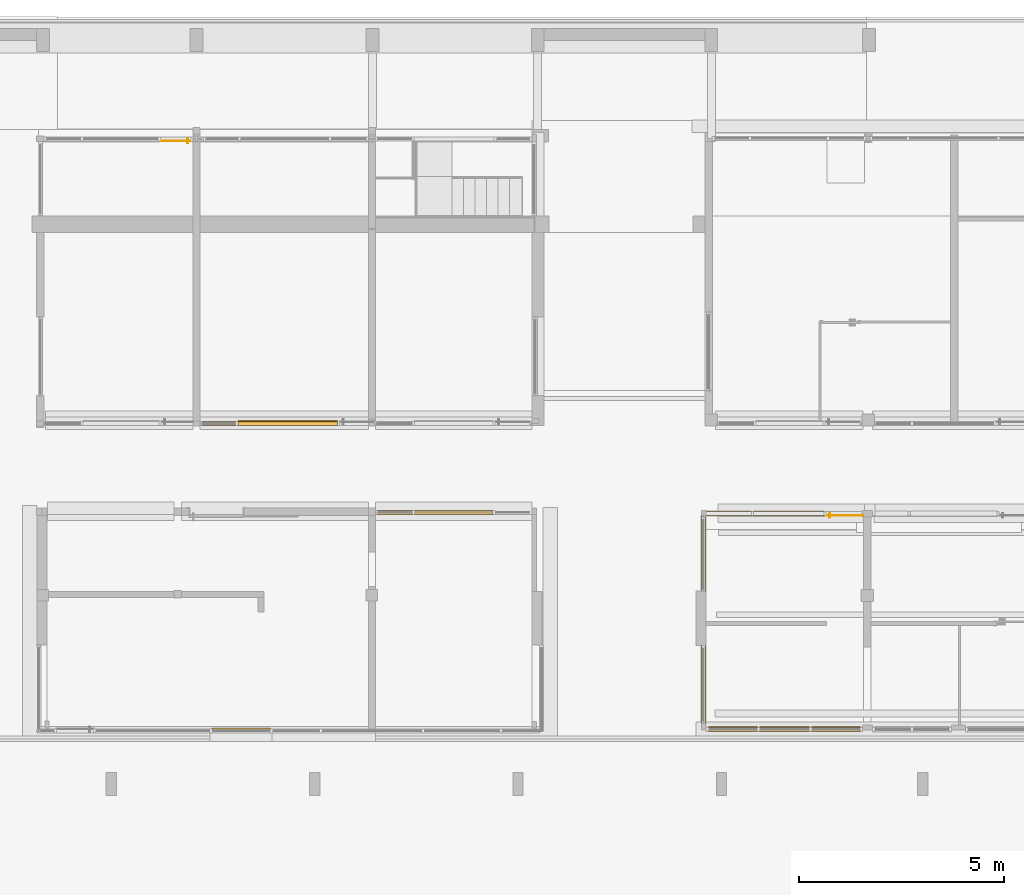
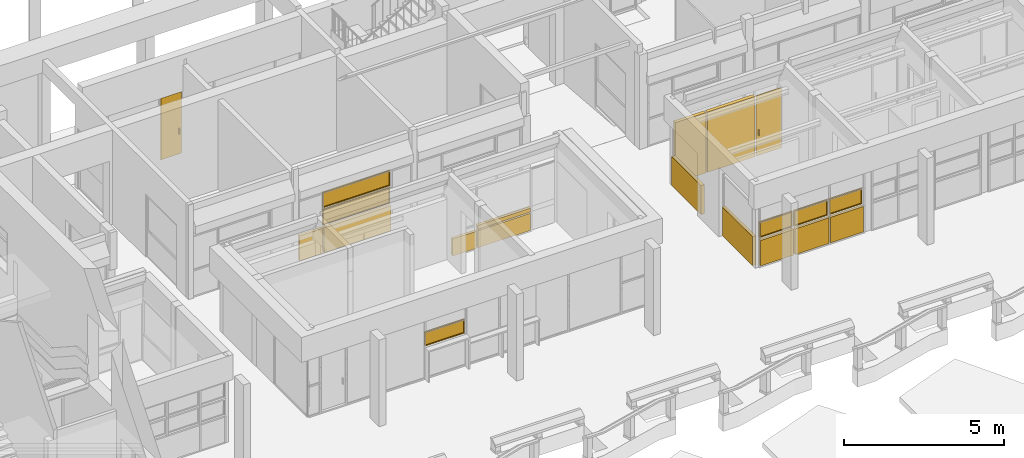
# One storey, part 105 of 117: 12 curtain walls, 6 windows, 2 doors, 8 elements without a shape of their own.
"""IFC4 building model written with IfcOpenShell, lengths in metres."""

from ifc_helpers import new_model, entity, si_unit, converted_unit, derived_unit, direction, frame, origin, place, context, subcontext, project, spatial, indexed_curve, outline, extrude, source, transform, mapped, material, constituent, constituent_set, type_object, type_shapes, element, aggregate, save


model = new_model("IFC4")

# Units and contexts
model_context = context("Model", 3, precision=1e-05, world=origin(), true_north=direction((6.123031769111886e-17, 1.0)))
body_context = subcontext(model_context, "Body", "Model", "MODEL_VIEW")
ifc_project = project(units=[si_unit("LENGTHUNIT", "METRE"), si_unit("AREAUNIT", "SQUARE_METRE"), si_unit("VOLUMEUNIT", "CUBIC_METRE"), converted_unit("PLANEANGLEUNIT", "DEGREE", entity("IfcRatioMeasure", 0.017453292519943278), si_unit("PLANEANGLEUNIT", "RADIAN"), dimensions=[0, 0, 0, 0, 0, 0, 0]), si_unit("MASSUNIT", "GRAM", prefix="KILO"), derived_unit("MASSDENSITYUNIT", [(si_unit("MASSUNIT", "GRAM", prefix="KILO"), 1), (si_unit("LENGTHUNIT", "METRE"), -3)]), derived_unit("MOMENTOFINERTIAUNIT", [(si_unit("LENGTHUNIT", "METRE"), 4)]), si_unit("TIMEUNIT", "SECOND"), si_unit("FREQUENCYUNIT", "HERTZ"), si_unit("THERMODYNAMICTEMPERATUREUNIT", "DEGREE_CELSIUS"), derived_unit("THERMALTRANSMITTANCEUNIT", [(si_unit("MASSUNIT", "GRAM", prefix="KILO"), 1), (si_unit("THERMODYNAMICTEMPERATUREUNIT", "KELVIN"), -1), (si_unit("TIMEUNIT", "SECOND"), -3)]), derived_unit("VOLUMETRICFLOWRATEUNIT", [(si_unit("LENGTHUNIT", "METRE"), 3), (si_unit("TIMEUNIT", "SECOND"), -1)]), derived_unit("MASSFLOWRATEUNIT", [(si_unit("MASSUNIT", "GRAM", prefix="KILO"), 1), (si_unit("TIMEUNIT", "SECOND"), -1)]), derived_unit("ROTATIONALFREQUENCYUNIT", [(si_unit("TIMEUNIT", "SECOND"), -1)]), si_unit("ELECTRICCURRENTUNIT", "AMPERE"), si_unit("ELECTRICVOLTAGEUNIT", "VOLT"), si_unit("POWERUNIT", "WATT"), si_unit("FORCEUNIT", "NEWTON", prefix="KILO"), si_unit("ILLUMINANCEUNIT", "LUX"), si_unit("LUMINOUSFLUXUNIT", "LUMEN"), si_unit("LUMINOUSINTENSITYUNIT", "CANDELA"), derived_unit("USERDEFINED", [(si_unit("MASSUNIT", "GRAM", prefix="KILO"), -1), (si_unit("LENGTHUNIT", "METRE"), -2), (si_unit("TIMEUNIT", "SECOND"), 3), (si_unit("LUMINOUSFLUXUNIT", "LUMEN"), 1)]), derived_unit("SOUNDPOWERUNIT", [(si_unit("MASSUNIT", "GRAM", prefix="KILO"), 1), (si_unit("LENGTHUNIT", "METRE"), 2), (si_unit("TIMEUNIT", "SECOND"), -3)]), derived_unit("SOUNDPRESSUREUNIT", [(si_unit("MASSUNIT", "GRAM", prefix="KILO"), 1), (si_unit("LENGTHUNIT", "METRE"), -1), (si_unit("TIMEUNIT", "SECOND"), -2)]), derived_unit("LINEARVELOCITYUNIT", [(si_unit("LENGTHUNIT", "METRE"), 1), (si_unit("TIMEUNIT", "SECOND"), -1)]), si_unit("PRESSUREUNIT", "PASCAL"), derived_unit("USERDEFINED", [(si_unit("LENGTHUNIT", "METRE"), -2), (si_unit("MASSUNIT", "GRAM", prefix="KILO"), 1), (si_unit("TIMEUNIT", "SECOND"), -2)]), derived_unit("LINEARFORCEUNIT", [(si_unit("MASSUNIT", "GRAM", prefix="KILO"), 1), (si_unit("LENGTHUNIT", "METRE"), 1), (si_unit("TIMEUNIT", "SECOND"), -2), (si_unit("LENGTHUNIT", "METRE"), -1)]), derived_unit("PLANARFORCEUNIT", [(si_unit("MASSUNIT", "GRAM", prefix="KILO"), 1), (si_unit("LENGTHUNIT", "METRE"), 1), (si_unit("TIMEUNIT", "SECOND"), -2), (si_unit("LENGTHUNIT", "METRE"), -2)])], contexts=[model_context])

# Site, building, storey
site_placement = place(None, origin())
site = spatial("IfcSite", under=ifc_project, at=site_placement, Name="Superficie", CompositionType="ELEMENT")
building_placement = place(site_placement, origin())
building = spatial("IfcBuilding", under=site, at=building_placement, CompositionType="ELEMENT")
storey_placement = place(building_placement, origin())
storey = spatial("IfcBuildingStorey", under=building, at=storey_placement, Name="Nivel 0", CompositionType="ELEMENT", Elevation=0.0)

# Curtain walls
curtain_wall_type_1 = type_object("IfcCurtainWallType", Name="Muro cortina:Muro cortina - simple", PredefinedType="NOTDEFINED")
curtain_wall_1_placement = place(storey_placement, origin())
curtain_wall_1 = element("IfcCurtainWall", 1, at=curtain_wall_1_placement, inside=storey, type_object=curtain_wall_type_1, Name="Muro cortina:Muro cortina - simple", ObjectType="Muro cortina:Muro cortina - simple", PredefinedType="NOTDEFINED")
ifc_material_1 = material(Name="<Unnamed>")
curtain_wall_type_2 = type_object("IfcCurtainWallType", Name="Muro básico:Por defecto - 12 cm 2", PredefinedType="NOTDEFINED")
curtain_wall_2_placement = place(storey_placement, frame((0.7267990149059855, 0.31936135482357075, 0.0), z_axis=(0.0, 0.0, 1.0), x_axis=(0.0, -1.0, 0.0)))
curtain_wall_2 = element("IfcCurtainWall", 2, at=curtain_wall_2_placement, type_object=curtain_wall_type_2, material=ifc_material_1, Name="Muro básico:Por defecto - 12 cm 2", ObjectType="Muro básico:Por defecto - 12 cm 2", PredefinedType="NOTDEFINED", context=body_context, shape_type="SweptSolid", body=[
    extrude(outline(indexed_curve([(1.8935320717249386, 0.060000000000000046), (-5.735525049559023e-18, 0.06000000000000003), (5.735525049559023e-18, -0.06000000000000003), (1.8935320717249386, -0.06000000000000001), (1.8935320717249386, 0.060000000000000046)], self_intersect=False)), origin(), (0.0, 0.0, 1.0), 1.1),
])
aggregate(curtain_wall_1, [curtain_wall_2])

curtain_wall_3_placement = place(storey_placement, origin())
curtain_wall_3 = element("IfcCurtainWall", 3, at=curtain_wall_3_placement, inside=storey, type_object=curtain_wall_type_1, Name="Muro cortina:Muro cortina - simple", ObjectType="Muro cortina:Muro cortina - simple", PredefinedType="NOTDEFINED")
curtain_wall_4_placement = place(storey_placement, frame((0.7267990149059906, 3.4854618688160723, 0.0), z_axis=(0.0, 0.0, 1.0), x_axis=(0.0, -1.0, 0.0)))
curtain_wall_4 = element("IfcCurtainWall", 4, at=curtain_wall_4_placement, type_object=curtain_wall_type_2, material=ifc_material_1, Name="Muro básico:Por defecto - 12 cm 2", ObjectType="Muro básico:Por defecto - 12 cm 2", PredefinedType="NOTDEFINED", context=body_context, shape_type="SweptSolid", body=[
    extrude(outline(indexed_curve([(1.846100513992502, 0.05999999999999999), (-7.341472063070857e-17, 0.06000000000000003), (7.341472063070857e-17, -0.06000000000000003), (1.846100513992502, -0.060000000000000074), (1.846100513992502, 0.05999999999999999)], self_intersect=False)), origin(), (0.0, 0.0, 1.0), 1.1),
])
aggregate(curtain_wall_3, [curtain_wall_4])

# Curtain walls, door
curtain_wall_5_placement = place(storey_placement, origin())
curtain_wall_5 = element("IfcCurtainWall", 5, at=curtain_wall_5_placement, inside=storey, type_object=curtain_wall_type_1, Name="Muro cortina:Muro cortina - simple", ObjectType="Muro cortina:Muro cortina - simple", PredefinedType="NOTDEFINED")
curtain_wall_6_placement = place(storey_placement, frame((3.6567990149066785, 3.5257137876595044, 0.05), z_axis=(0.0, 0.0, 1.0), x_axis=(-1.0, 0.0, 0.0)))
curtain_wall_6 = element("IfcCurtainWall", 6, at=curtain_wall_6_placement, type_object=curtain_wall_type_2, material=ifc_material_1, Name="Muro básico:Por defecto - 12 cm 2", ObjectType="Muro básico:Por defecto - 12 cm 2", PredefinedType="NOTDEFINED", context=body_context, shape_type="SweptSolid", body=[
    extrude(outline(indexed_curve([(1.7100000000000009, 0.06000000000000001), (-1.9420986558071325e-16, 0.059999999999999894), (1.9420986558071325e-16, -0.059999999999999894), (1.7100000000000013, -0.059999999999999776), (1.7100000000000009, 0.06000000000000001)], self_intersect=False)), origin(), (0.0, 0.0, 1.0), 2.3),
])
curtain_wall_7_placement = place(storey_placement, frame((1.8967990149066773, 3.5257137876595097, 0.05), z_axis=(0.0, 0.0, 1.0), x_axis=(-1.0, 0.0, 0.0)))
curtain_wall_7 = element("IfcCurtainWall", 7, at=curtain_wall_7_placement, type_object=curtain_wall_type_2, material=ifc_material_1, Name="Muro básico:Por defecto - 12 cm 2", ObjectType="Muro básico:Por defecto - 12 cm 2", PredefinedType="NOTDEFINED", context=body_context, shape_type="SweptSolid", body=[
    extrude(outline(indexed_curve([(1.1049999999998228, 0.059999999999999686), (-1.9420986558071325e-16, 0.059999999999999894), (1.9420986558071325e-16, -0.059999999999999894), (1.104999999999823, -0.06000000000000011), (1.1049999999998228, 0.059999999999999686)], self_intersect=False)), origin(), (0.0, 0.0, 1.0), 2.3),
])
ifc_material_2 = material(Name="Metal - Aluminio", Category="Metal")
ifc_constituent_1 = constituent(ifc_material_2, Name="Metal - Aluminio", Category="Metal")
ifc_material_3 = material(Name="Acero", Category="Metal")
ifc_constituent_2 = constituent(ifc_material_3, Name="Acero", Category="Metal")
ifc_constituent_set_1 = constituent_set(constituents=[ifc_constituent_1, ifc_constituent_2], Name="MaterialConstituentSet")
ifc_constituent_3 = constituent(ifc_material_2, Name="Marco/montante", Category="Metal")
ifc_constituent_4 = constituent(ifc_material_3, Name="Panel", Category="Metal")
ifc_constituent_set_2 = constituent_set(constituents=[ifc_constituent_3, ifc_constituent_4], Name="MaterialConstituentSet")
door_type_1 = type_object("IfcDoorType", Name="Puerta de cristal abatible en muro cortina:Puerta de chapa abatible en muro cortina 2", OperationType="NOTDEFINED", PredefinedType="DOOR", material=ifc_constituent_set_2)
shared_shape_1 = source(origin(), body_context, "Body", "SweptSolid", [
    extrude(outline(indexed_curve([(-0.012700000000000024, -0.0254), (0.012700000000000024, -0.0254), (0.012700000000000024, 0.0254), (-0.012700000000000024, 0.0254), (-0.012700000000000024, -0.0254)], self_intersect=False)), frame((0.3661000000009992, 0.012900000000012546, 0.7619999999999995)), (0.0, 0.0, 1.0), 0.22860000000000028),
    extrude(outline(indexed_curve([(-0.012699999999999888, -0.025399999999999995), (0.01269999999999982, -0.025399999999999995), (0.01269999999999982, 0.025400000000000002), (-0.012699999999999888, 0.025400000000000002), (-0.012699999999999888, -0.025399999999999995)], self_intersect=False)), frame((0.3661000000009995, 0.07640000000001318, 0.762), z_axis=(0.0, 0.0, 1.0), x_axis=(-1.0, 0.0, 0.0)), (0.0, 0.0, 1.0), 0.22860000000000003),
    extrude(outline(indexed_curve([(-0.006350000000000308, -0.4550000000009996), (0.006350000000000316, -0.45500000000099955), (0.006350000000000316, 0.45500000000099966), (-0.006350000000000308, 0.4550000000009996), (-0.006350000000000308, -0.4550000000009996)], self_intersect=False)), frame((0.0, 0.04465000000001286, 0.0), z_axis=(0.0, 0.0, 1.0), x_axis=(0.0, -1.0, 0.0)), (0.0, 0.0, 1.0), 2.3),
])
type_shapes(door_type_1, [shared_shape_1])
door_1_placement = place(curtain_wall_5_placement, frame((4.161799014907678, 3.5257137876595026, 0.05), z_axis=(0.0, 0.0, 1.0), x_axis=(-1.0, 0.0, 0.0)))
door_1 = element("IfcDoor", 8, at=door_1_placement, type_object=door_type_1, material=ifc_constituent_set_1, Name="Puerta de cristal abatible en muro cortina:Puerta de chapa abatible en muro cortina 2", ObjectType="Puerta de cristal abatible en muro cortina:Puerta de chapa abatible en muro cortina 2", OperationType="NOTDEFINED", OverallHeight=2.3, OverallWidth=0.9100000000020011, PredefinedType="DOOR", context=body_context, shape_type="MappedRepresentation", body=[
    mapped(shared_shape_1, transform((0.0, 0.0, 0.0), scale=1.0)),
])
aggregate(curtain_wall_5, [door_1, curtain_wall_6, curtain_wall_7])

# Curtain walls
curtain_wall_8_placement = place(storey_placement, origin())
curtain_wall_8 = element("IfcCurtainWall", 9, at=curtain_wall_8_placement, inside=storey, type_object=curtain_wall_type_1, Name="Muro cortina:Muro cortina - simple", ObjectType="Muro cortina:Muro cortina - simple", PredefinedType="NOTDEFINED")
curtain_wall_type_3 = type_object("IfcCurtainWallType", Name="Muro básico:Por defecto - 10 cm", PredefinedType="NOTDEFINED")
curtain_wall_9_placement = place(storey_placement, frame((-11.478200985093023, 5.715829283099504, 0.04500000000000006)))
curtain_wall_9 = element("IfcCurtainWall", 10, at=curtain_wall_9_placement, type_object=curtain_wall_type_3, material=ifc_material_1, Name="Muro básico:Por defecto - 10 cm", ObjectType="Muro básico:Por defecto - 10 cm", PredefinedType="NOTDEFINED", context=body_context, shape_type="SweptSolid", body=[
    extrude(outline(indexed_curve([(0.8299999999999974, 0.050000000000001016), (-1.5924516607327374e-16, 0.050000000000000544), (1.5924516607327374e-16, -0.050000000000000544), (0.8299999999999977, -0.05000000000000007), (0.8299999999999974, 0.050000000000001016)], self_intersect=False)), origin(), (0.0, 0.0, 1.0), 0.9500000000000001),
])
curtain_wall_10_placement = place(storey_placement, frame((-10.598200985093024, 5.715829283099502, 0.04500000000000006)))
curtain_wall_10 = element("IfcCurtainWall", 11, at=curtain_wall_10_placement, type_object=curtain_wall_type_3, material=ifc_material_1, Name="Muro básico:Por defecto - 10 cm", ObjectType="Muro básico:Por defecto - 10 cm", PredefinedType="NOTDEFINED", context=body_context, shape_type="SweptSolid", body=[
    extrude(outline(indexed_curve([(2.419534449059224, 0.05000000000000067), (-1.5924516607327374e-16, 0.050000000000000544), (1.5924516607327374e-16, -0.050000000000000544), (2.4195344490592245, -0.05000000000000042), (2.419534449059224, 0.05000000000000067)], self_intersect=False)), origin(), (0.0, 0.0, 1.0), 0.9500000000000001),
])

curtain_wall_11_placement = place(storey_placement, origin())
curtain_wall_11 = element("IfcCurtainWall", 12, at=curtain_wall_11_placement, inside=storey, type_object=curtain_wall_type_1, Name="Muro cortina:Muro cortina - simple", ObjectType="Muro cortina:Muro cortina - simple", PredefinedType="NOTDEFINED")
curtain_wall_12_placement = place(storey_placement, frame((-4.398200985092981, 3.5558292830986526, 0.04500000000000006), z_axis=(0.0, 0.0, 1.0), x_axis=(-1.0, 0.0, 0.0)))
curtain_wall_12 = element("IfcCurtainWall", 13, at=curtain_wall_12_placement, type_object=curtain_wall_type_3, material=ifc_material_1, Name="Muro básico:Por defecto - 10 cm", ObjectType="Muro básico:Por defecto - 10 cm", PredefinedType="NOTDEFINED", context=body_context, shape_type="SweptSolid", body=[
    extrude(outline(indexed_curve([(1.9100000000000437, 0.05000000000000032), (-1.6428722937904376e-16, 0.05), (1.6428722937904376e-16, -0.05), (1.910000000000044, -0.049999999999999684), (1.9100000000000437, 0.05000000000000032)], self_intersect=False)), origin(), (0.0, 0.0, 1.0), 0.6499999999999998),
])
curtain_wall_13_placement = place(storey_placement, frame((-6.358200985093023, 3.555829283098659, 0.04500000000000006), z_axis=(0.0, 0.0, 1.0), x_axis=(-1.0, 0.0, 0.0)))
curtain_wall_13 = element("IfcCurtainWall", 14, at=curtain_wall_13_placement, type_object=curtain_wall_type_3, material=ifc_material_1, Name="Muro básico:Por defecto - 10 cm", ObjectType="Muro básico:Por defecto - 10 cm", PredefinedType="NOTDEFINED", context=body_context, shape_type="SweptSolid", body=[
    extrude(outline(indexed_curve([(0.8500000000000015, 0.050000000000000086), (-1.6428722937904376e-16, 0.05), (1.6428722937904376e-16, -0.05), (0.8500000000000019, -0.04999999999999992), (0.8500000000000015, 0.050000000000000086)], self_intersect=False)), origin(), (0.0, 0.0, 1.0), 0.6499999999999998),
])
curtain_wall_14_placement = place(storey_placement, frame((-4.398200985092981, 3.5558292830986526, 0.7449999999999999), z_axis=(0.0, 0.0, 1.0), x_axis=(-1.0, 0.0, 0.0)))
curtain_wall_14 = element("IfcCurtainWall", 15, at=curtain_wall_14_placement, type_object=curtain_wall_type_3, material=ifc_material_1, Name="Muro básico:Por defecto - 10 cm", ObjectType="Muro básico:Por defecto - 10 cm", PredefinedType="NOTDEFINED", context=body_context, shape_type="SweptSolid", body=[
    extrude(outline(indexed_curve([(1.9100000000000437, 0.05000000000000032), (-1.6428722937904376e-16, 0.05), (1.6428722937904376e-16, -0.05), (1.910000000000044, -0.049999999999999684), (1.9100000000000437, 0.05000000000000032)], self_intersect=False)), origin(), (0.0, 0.0, 1.0), 0.15000000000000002),
])
aggregate(curtain_wall_11, [curtain_wall_12, curtain_wall_13, curtain_wall_14])

curtain_wall_15_placement = place(storey_placement, origin())
curtain_wall_15 = element("IfcCurtainWall", 16, at=curtain_wall_15_placement, inside=storey, type_object=curtain_wall_type_1, Name="Muro cortina:Muro cortina - simple", ObjectType="Muro cortina:Muro cortina - simple", PredefinedType="NOTDEFINED")
curtain_wall_16_placement = place(storey_placement, frame((4.546799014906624, -1.724170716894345, 0.05), z_axis=(0.0, 0.0, 1.0), x_axis=(-1.0, 0.0, 0.0)))
curtain_wall_16 = element("IfcCurtainWall", 17, at=curtain_wall_16_placement, type_object=curtain_wall_type_3, material=ifc_material_1, Name="Muro básico:Por defecto - 10 cm", ObjectType="Muro básico:Por defecto - 10 cm", PredefinedType="NOTDEFINED", context=body_context, shape_type="SweptSolid", body=[
    extrude(outline(indexed_curve([(1.1933333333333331, 0.05000000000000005), (-1.608109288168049e-16, 0.05), (1.608109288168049e-16, -0.05), (1.1933333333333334, -0.049999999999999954), (1.1933333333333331, 0.05000000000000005)], self_intersect=False)), origin(), (0.0, 0.0, 1.0), 0.975),
])
curtain_wall_17_placement = place(storey_placement, frame((3.3034656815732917, -1.724170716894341, 0.05), z_axis=(0.0, 0.0, 1.0), x_axis=(-1.0, 0.0, 0.0)))
curtain_wall_17 = element("IfcCurtainWall", 18, at=curtain_wall_17_placement, type_object=curtain_wall_type_3, material=ifc_material_1, Name="Muro básico:Por defecto - 10 cm", ObjectType="Muro básico:Por defecto - 10 cm", PredefinedType="NOTDEFINED", context=body_context, shape_type="SweptSolid", body=[
    extrude(outline(indexed_curve([(1.2183333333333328, 0.04999999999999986), (-1.608109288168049e-16, 0.05), (1.608109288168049e-16, -0.05), (1.2183333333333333, -0.05000000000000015), (1.2183333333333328, 0.04999999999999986)], self_intersect=False)), origin(), (0.0, 0.0, 1.0), 0.975),
])
curtain_wall_18_placement = place(storey_placement, frame((2.0351323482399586, -1.724170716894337, 0.05), z_axis=(0.0, 0.0, 1.0), x_axis=(-1.0, 0.0, 0.0)))
curtain_wall_18 = element("IfcCurtainWall", 19, at=curtain_wall_18_placement, type_object=curtain_wall_type_3, material=ifc_material_1, Name="Muro básico:Por defecto - 10 cm", ObjectType="Muro básico:Por defecto - 10 cm", PredefinedType="NOTDEFINED", context=body_context, shape_type="SweptSolid", body=[
    extrude(outline(indexed_curve([(1.1933333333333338, 0.04999999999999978), (-1.608109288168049e-16, 0.05), (1.608109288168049e-16, -0.05), (1.193333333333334, -0.050000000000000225), (1.1933333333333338, 0.04999999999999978)], self_intersect=False)), origin(), (0.0, 0.0, 1.0), 0.975),
])

# Window
ifc_material_4 = material(Name="Vidrio", Category="Vidrio")
ifc_constituent_5 = constituent(ifc_material_4, Name="Vidrio", Category="Vidrio")
ifc_constituent_6 = constituent(ifc_material_2, Name="Metal - Aluminio", Category="Metal")
ifc_constituent_set_3 = constituent_set(constituents=[ifc_constituent_5, ifc_constituent_6], Name="MaterialConstituentSet")
ifc_constituent_7 = constituent(ifc_material_4, Name="Cristal", Category="Vidrio")
ifc_constituent_8 = constituent(ifc_material_2, Name="Marco/montante", Category="Metal")
ifc_constituent_set_4 = constituent_set(constituents=[ifc_constituent_7, ifc_constituent_8], Name="MaterialConstituentSet")
window_type_1 = type_object("IfcWindowType", Name="Ventana de muro cortina con proyectable simple:Ventana de muro cortina con proyectable simple", PartitioningType="NOTDEFINED", PredefinedType="WINDOW", material=ifc_constituent_set_4)
shared_shape_2 = source(origin(), body_context, "Body", "SweptSolid", [
    extrude(outline(indexed_curve([(-0.006350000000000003, -1.1797672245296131), (0.0063499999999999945, -1.1797672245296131), (0.0063499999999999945, 1.1797672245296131), (-0.006350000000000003, 1.1797672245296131), (-0.006350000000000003, -1.1797672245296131)], self_intersect=False)), frame((0.0, 0.05039999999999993, 0.030000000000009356), z_axis=(0.0, 0.0, 1.0), x_axis=(0.0, 1.0, 0.0)), (0.0, 0.0, 1.0), 0.5549999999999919),
    extrude(outline(indexed_curve([(-1.2097672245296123, -0.30750000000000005), (1.2097672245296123, -0.30750000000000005), (1.2097672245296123, 0.30750000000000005), (-1.2097672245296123, 0.30750000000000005), (-1.2097672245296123, -0.30750000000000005)], self_intersect=False), holes=[indexed_curve([(-1.1797672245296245, -0.2775000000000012), (-1.1797672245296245, 0.27749999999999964), (1.1797672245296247, 0.27749999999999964), (1.1797672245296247, -0.2775000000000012), (-1.1797672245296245, -0.2775000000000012)], self_intersect=False)]), frame((0.0, 0.024999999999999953, 0.30750000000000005), z_axis=(0.0, 1.0, 0.0), x_axis=(1.0, 0.0, 0.0)), (0.0, 0.0, 1.0), 0.05000000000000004),
])
type_shapes(window_type_1, [shared_shape_2])
window_1_placement = place(curtain_wall_8_placement, frame((-9.38843376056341, 5.715829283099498, 1.045)))
window_1 = element("IfcWindow", 20, at=window_1_placement, type_object=window_type_1, material=ifc_constituent_set_3, Name="Ventana de muro cortina con proyectable simple:Ventana de muro cortina con proyectable simple", ObjectType="Ventana de muro cortina con proyectable simple:Ventana de muro cortina con proyectable simple", OverallHeight=0.6150000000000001, OverallWidth=2.4195344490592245, PartitioningType="NOTDEFINED", PredefinedType="WINDOW", context=body_context, shape_type="MappedRepresentation", body=[
    mapped(shared_shape_2, transform((0.0, 0.0, 0.0), scale=1.0)),
])

ifc_constituent_9 = constituent(ifc_material_4, Name="Vidrio", Category="Vidrio")
ifc_constituent_10 = constituent(ifc_material_2, Name="Metal - Aluminio", Category="Metal")
ifc_constituent_set_5 = constituent_set(constituents=[ifc_constituent_9, ifc_constituent_10], Name="MaterialConstituentSet")
ifc_constituent_11 = constituent(ifc_material_4, Name="Cristal", Category="Vidrio")
ifc_constituent_12 = constituent(ifc_material_2, Name="Marco/montante", Category="Metal")
ifc_constituent_set_6 = constituent_set(constituents=[ifc_constituent_11, ifc_constituent_12], Name="MaterialConstituentSet")
window_type_2 = type_object("IfcWindowType", Name="Ventana de muro cortina con proyectable simple:Ventana de muro cortina con proyectable simple", PartitioningType="NOTDEFINED", PredefinedType="WINDOW", material=ifc_constituent_set_6)
shared_shape_3 = source(origin(), body_context, "Body", "SweptSolid", [
    extrude(outline(indexed_curve([(-0.006350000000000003, -1.1797672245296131), (0.0063499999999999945, -1.1797672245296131), (0.0063499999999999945, 1.1797672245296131), (-0.006350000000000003, 1.1797672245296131), (-0.006350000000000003, -1.1797672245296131)], self_intersect=False)), frame((0.0, 0.05039999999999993, 0.030000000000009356), z_axis=(0.0, 0.0, 1.0), x_axis=(0.0, 1.0, 0.0)), (0.0, 0.0, 1.0), 0.5299999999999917),
    extrude(outline(indexed_curve([(-1.2097672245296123, -0.29499999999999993), (1.2097672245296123, -0.29499999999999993), (1.2097672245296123, 0.29499999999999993), (-1.2097672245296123, 0.29499999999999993), (-1.2097672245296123, -0.29499999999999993)], self_intersect=False), holes=[indexed_curve([(-1.1797672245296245, -0.26500000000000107), (-1.1797672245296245, 0.2649999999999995), (1.1797672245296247, 0.2649999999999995), (1.1797672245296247, -0.26500000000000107), (-1.1797672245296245, -0.26500000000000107)], self_intersect=False)]), frame((0.0, 0.024999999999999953, 0.29499999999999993), z_axis=(0.0, 1.0, 0.0), x_axis=(1.0, 0.0, 0.0)), (0.0, 0.0, 1.0), 0.05000000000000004),
])
type_shapes(window_type_2, [shared_shape_3])
window_2_placement = place(curtain_wall_8_placement, frame((-9.38843376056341, 5.715829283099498, 1.71)))
window_2 = element("IfcWindow", 21, at=window_2_placement, type_object=window_type_2, material=ifc_constituent_set_5, Name="Ventana de muro cortina con proyectable simple:Ventana de muro cortina con proyectable simple", ObjectType="Ventana de muro cortina con proyectable simple:Ventana de muro cortina con proyectable simple", OverallHeight=0.5899999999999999, OverallWidth=2.4195344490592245, PartitioningType="NOTDEFINED", PredefinedType="WINDOW", context=body_context, shape_type="MappedRepresentation", body=[
    mapped(shared_shape_3, transform((0.0, 0.0, 0.0), scale=1.0)),
])

aggregate(curtain_wall_8, [curtain_wall_9, curtain_wall_10, window_1, window_2])

ifc_constituent_13 = constituent(ifc_material_4, Name="Vidrio", Category="Vidrio")
ifc_constituent_14 = constituent(ifc_material_2, Name="Metal - Aluminio", Category="Metal")
ifc_constituent_set_7 = constituent_set(constituents=[ifc_constituent_13, ifc_constituent_14], Name="MaterialConstituentSet")
ifc_constituent_15 = constituent(ifc_material_4, Name="Cristal", Category="Vidrio")
ifc_constituent_16 = constituent(ifc_material_2, Name="Marco/montante", Category="Metal")
ifc_constituent_set_8 = constituent_set(constituents=[ifc_constituent_15, ifc_constituent_16], Name="MaterialConstituentSet")
window_type_3 = type_object("IfcWindowType", Name="Ventana de muro cortina con proyectable simple:Ventana de muro cortina con proyectable simple", PartitioningType="NOTDEFINED", PredefinedType="WINDOW", material=ifc_constituent_set_8)
shared_shape_4 = source(origin(), body_context, "Body", "SweptSolid", [
    extrude(outline(indexed_curve([(-0.5666666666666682, -0.006350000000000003), (0.5666666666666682, -0.006350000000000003), (0.5666666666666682, 0.0063499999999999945), (-0.5666666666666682, 0.0063499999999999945), (-0.5666666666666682, -0.006350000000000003)], self_intersect=False)), frame((0.0, 0.05039999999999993, 0.030000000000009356)), (0.0, 0.0, 1.0), 0.5399999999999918),
    extrude(outline(indexed_curve([(-0.5966666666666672, -0.30000000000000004), (0.5966666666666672, -0.30000000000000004), (0.5966666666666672, 0.30000000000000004), (-0.5966666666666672, 0.30000000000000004), (-0.5966666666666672, -0.30000000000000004)], self_intersect=False), holes=[indexed_curve([(-0.5666666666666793, -0.2700000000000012), (-0.5666666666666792, 0.26999999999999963), (0.5666666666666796, 0.26999999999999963), (0.5666666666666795, -0.2700000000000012), (-0.5666666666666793, -0.2700000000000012)], self_intersect=False)]), frame((0.0, 0.07499999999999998, 0.30000000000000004), z_axis=(0.0, -1.0, 0.0), x_axis=(-1.0, 0.0, 0.0)), (0.0, 0.0, 1.0), 0.05000000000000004),
])
type_shapes(window_type_3, [shared_shape_4])
window_3_placement = place(curtain_wall_15_placement, frame((3.9501323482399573, -1.724170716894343, 1.0749999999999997)))
window_3 = element("IfcWindow", 22, at=window_3_placement, type_object=window_type_3, material=ifc_constituent_set_7, Name="Ventana de muro cortina con proyectable simple:Ventana de muro cortina con proyectable simple", ObjectType="Ventana de muro cortina con proyectable simple:Ventana de muro cortina con proyectable simple", OverallHeight=0.6000000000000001, OverallWidth=1.1933333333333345, PartitioningType="NOTDEFINED", PredefinedType="WINDOW", context=body_context, shape_type="MappedRepresentation", body=[
    mapped(shared_shape_4, transform((0.0, 0.0, 0.0), scale=1.0)),
])

ifc_constituent_17 = constituent(ifc_material_4, Name="Vidrio", Category="Vidrio")
ifc_constituent_18 = constituent(ifc_material_2, Name="Metal - Aluminio", Category="Metal")
ifc_constituent_set_9 = constituent_set(constituents=[ifc_constituent_17, ifc_constituent_18], Name="MaterialConstituentSet")
window_4_placement = place(curtain_wall_15_placement, frame((1.4384656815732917, -1.7241707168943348, 1.0749999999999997)))
window_4 = element("IfcWindow", 23, at=window_4_placement, type_object=window_type_3, material=ifc_constituent_set_9, Name="Ventana de muro cortina con proyectable simple:Ventana de muro cortina con proyectable simple", ObjectType="Ventana de muro cortina con proyectable simple:Ventana de muro cortina con proyectable simple", OverallHeight=0.6000000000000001, OverallWidth=1.1933333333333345, PartitioningType="NOTDEFINED", PredefinedType="WINDOW", context=body_context, shape_type="MappedRepresentation", body=[
    mapped(shared_shape_4, transform((0.0, 0.0, 0.0), scale=1.0)),
])

ifc_constituent_19 = constituent(ifc_material_4, Name="Vidrio", Category="Vidrio")
ifc_constituent_20 = constituent(ifc_material_2, Name="Metal - Aluminio", Category="Metal")
ifc_constituent_set_10 = constituent_set(constituents=[ifc_constituent_19, ifc_constituent_20], Name="MaterialConstituentSet")
ifc_constituent_21 = constituent(ifc_material_4, Name="Cristal", Category="Vidrio")
ifc_constituent_22 = constituent(ifc_material_2, Name="Marco/montante", Category="Metal")
ifc_constituent_set_11 = constituent_set(constituents=[ifc_constituent_21, ifc_constituent_22], Name="MaterialConstituentSet")
window_type_4 = type_object("IfcWindowType", Name="Ventana de muro cortina con proyectable simple:Ventana de muro cortina con proyectable simple", PartitioningType="NOTDEFINED", PredefinedType="WINDOW", material=ifc_constituent_set_11)
shared_shape_5 = source(origin(), body_context, "Body", "SweptSolid", [
    extrude(outline(indexed_curve([(-0.5791666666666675, -0.006350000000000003), (0.5791666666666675, -0.006350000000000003), (0.5791666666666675, 0.0063499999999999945), (-0.5791666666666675, 0.0063499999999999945), (-0.5791666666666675, -0.006350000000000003)], self_intersect=False)), frame((0.0, 0.05039999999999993, 0.030000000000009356)), (0.0, 0.0, 1.0), 0.5399999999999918),
    extrude(outline(indexed_curve([(-0.6091666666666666, -0.30000000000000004), (0.6091666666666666, -0.30000000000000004), (0.6091666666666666, 0.30000000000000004), (-0.6091666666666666, 0.30000000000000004), (-0.6091666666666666, -0.30000000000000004)], self_intersect=False), holes=[indexed_curve([(-0.5791666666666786, -0.2700000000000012), (-0.5791666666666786, 0.26999999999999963), (0.5791666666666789, 0.26999999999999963), (0.5791666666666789, -0.2700000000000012), (-0.5791666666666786, -0.2700000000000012)], self_intersect=False)]), frame((0.0, 0.07499999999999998, 0.30000000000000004), z_axis=(0.0, -1.0, 0.0), x_axis=(-1.0, 0.0, 0.0)), (0.0, 0.0, 1.0), 0.05000000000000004),
])
type_shapes(window_type_4, [shared_shape_5])
window_5_placement = place(curtain_wall_15_placement, frame((2.694299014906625, -1.724170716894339, 1.0749999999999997)))
window_5 = element("IfcWindow", 24, at=window_5_placement, type_object=window_type_4, material=ifc_constituent_set_10, Name="Ventana de muro cortina con proyectable simple:Ventana de muro cortina con proyectable simple", ObjectType="Ventana de muro cortina con proyectable simple:Ventana de muro cortina con proyectable simple", OverallHeight=0.6000000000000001, OverallWidth=1.2183333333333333, PartitioningType="NOTDEFINED", PredefinedType="WINDOW", context=body_context, shape_type="MappedRepresentation", body=[
    mapped(shared_shape_5, transform((0.0, 0.0, 0.0), scale=1.0)),
])

aggregate(curtain_wall_15, [curtain_wall_16, curtain_wall_17, curtain_wall_18, window_3, window_5, window_4])

# Curtain wall, window
curtain_wall_19_placement = place(storey_placement, origin())
curtain_wall_19 = element("IfcCurtainWall", 25, at=curtain_wall_19_placement, inside=storey, type_object=curtain_wall_type_1, Name="Muro cortina:Muro cortina - simple", ObjectType="Muro cortina:Muro cortina - simple", PredefinedType="NOTDEFINED")
ifc_constituent_23 = constituent(ifc_material_4, Name="Vidrio", Category="Vidrio")
ifc_constituent_24 = constituent(ifc_material_2, Name="Metal - Aluminio", Category="Metal")
ifc_constituent_set_12 = constituent_set(constituents=[ifc_constituent_23, ifc_constituent_24], Name="MaterialConstituentSet")
ifc_constituent_25 = constituent(ifc_material_4, Name="Cristal", Category="Vidrio")
ifc_constituent_26 = constituent(ifc_material_2, Name="Marco/montante", Category="Metal")
ifc_constituent_set_13 = constituent_set(constituents=[ifc_constituent_25, ifc_constituent_26], Name="MaterialConstituentSet")
window_type_5 = type_object("IfcWindowType", Name="Ventana de muro cortina con proyectable simple:Ventana de muro cortina con proyectable simple", PartitioningType="NOTDEFINED", PredefinedType="WINDOW", material=ifc_constituent_set_13)
shared_shape_6 = source(origin(), body_context, "Body", "SweptSolid", [
    extrude(outline(indexed_curve([(-0.006350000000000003, -0.6850000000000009), (0.0063499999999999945, -0.6850000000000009), (0.0063499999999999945, 0.6850000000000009), (-0.006350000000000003, 0.6850000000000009), (-0.006350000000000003, -0.6850000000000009)], self_intersect=False)), frame((0.0, 0.05039999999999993, 0.030000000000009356), z_axis=(0.0, 0.0, 1.0), x_axis=(0.0, 1.0, 0.0)), (0.0, 0.0, 1.0), 0.4774999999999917),
    extrude(outline(indexed_curve([(-0.7149999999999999, -0.26874999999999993), (0.7149999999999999, -0.26874999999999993), (0.7149999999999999, 0.26874999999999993), (-0.7149999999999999, 0.26874999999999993), (-0.7149999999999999, -0.26874999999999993)], self_intersect=False), holes=[indexed_curve([(-0.6850000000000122, -0.2387500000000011), (-0.6850000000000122, 0.23874999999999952), (0.6850000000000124, 0.23874999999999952), (0.6850000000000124, -0.2387500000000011), (-0.6850000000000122, -0.2387500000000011)], self_intersect=False)]), frame((0.0, 0.024999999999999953, 0.26874999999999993), z_axis=(0.0, 1.0, 0.0), x_axis=(1.0, 0.0, 0.0)), (0.0, 0.0, 1.0), 0.05000000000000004),
])
type_shapes(window_type_5, [shared_shape_6])
window_6_placement = place(curtain_wall_19_placement, frame((-10.52476615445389, -1.764170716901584, 1.2000000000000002)))
window_6 = element("IfcWindow", 26, at=window_6_placement, type_object=window_type_5, material=ifc_constituent_set_12, Name="Ventana de muro cortina con proyectable simple:Ventana de muro cortina con proyectable simple", ObjectType="Ventana de muro cortina con proyectable simple:Ventana de muro cortina con proyectable simple", OverallHeight=0.5374999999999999, OverallWidth=1.4300000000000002, PartitioningType="NOTDEFINED", PredefinedType="WINDOW", context=body_context, shape_type="MappedRepresentation", body=[
    mapped(shared_shape_6, transform((0.0, 0.0, 0.0), scale=1.0)),
])
aggregate(curtain_wall_19, [window_6])

# Curtain wall, door
curtain_wall_20_placement = place(storey_placement, origin())
curtain_wall_20 = element("IfcCurtainWall", 27, at=curtain_wall_20_placement, inside=storey, type_object=curtain_wall_type_1, Name="Muro cortina:Muro cortina - simple", ObjectType="Muro cortina:Muro cortina - simple", PredefinedType="NOTDEFINED")
ifc_constituent_27 = constituent(ifc_material_2, Name="Metal - Aluminio", Category="Metal")
ifc_constituent_28 = constituent(ifc_material_4, Name="Vidrio", Category="Vidrio")
ifc_constituent_set_14 = constituent_set(constituents=[ifc_constituent_27, ifc_constituent_28], Name="MaterialConstituentSet")
ifc_constituent_29 = constituent(ifc_material_2, Name="Marco/montante", Category="Metal")
ifc_constituent_30 = constituent(ifc_material_4, Name="Panel", Category="Vidrio")
ifc_constituent_set_15 = constituent_set(constituents=[ifc_constituent_29, ifc_constituent_30], Name="MaterialConstituentSet")
door_type_2 = type_object("IfcDoorType", Name="Puerta de cristal abatible en muro cortina:Puerta de cristal abatible en muro cortina", OperationType="NOTDEFINED", PredefinedType="DOOR", material=ifc_constituent_set_15)
shared_shape_7 = source(origin(), body_context, "Body", "SweptSolid", [
    extrude(outline(indexed_curve([(-0.0254, -0.012699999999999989), (0.0254, -0.012699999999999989), (0.0254, 0.012699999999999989), (-0.0254, 0.012699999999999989), (-0.0254, -0.012699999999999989)], self_intersect=False)), frame((-0.28359999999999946, 0.012900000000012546, 0.7619999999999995), z_axis=(0.0, 0.0, 1.0), x_axis=(0.0, 1.0, 0.0)), (0.0, 0.0, 1.0), 0.22860000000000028),
    extrude(outline(indexed_curve([(-0.025399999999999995, -0.012699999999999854), (0.025400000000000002, -0.012699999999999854), (0.025400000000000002, 0.012699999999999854), (-0.025399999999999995, 0.012699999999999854), (-0.025399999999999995, -0.012699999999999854)], self_intersect=False)), frame((-0.28359999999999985, 0.07640000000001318, 0.762), z_axis=(0.0, 0.0, 1.0), x_axis=(0.0, -1.0, 0.0)), (0.0, 0.0, 1.0), 0.22860000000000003),
    extrude(outline(indexed_curve([(-0.37249999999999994, -0.006350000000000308), (0.37249999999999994, -0.006350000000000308), (0.37249999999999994, 0.006350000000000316), (-0.37249999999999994, 0.006350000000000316), (-0.37249999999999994, -0.006350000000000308)], self_intersect=False)), frame((0.0, 0.04465000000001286, 0.0), z_axis=(0.0, 0.0, 1.0), x_axis=(-1.0, 0.0, 0.0)), (0.0, 0.0, 1.0), 2.34),
])
type_shapes(door_type_2, [shared_shape_7])
door_2_placement = place(curtain_wall_20_placement, frame((-12.114888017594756, 12.64082928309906, 0.05), z_axis=(0.0, 0.0, 1.0), x_axis=(-1.0, 0.0, 0.0)))
door_2 = element("IfcDoor", 28, at=door_2_placement, type_object=door_type_2, material=ifc_constituent_set_14, Name="Puerta de cristal abatible en muro cortina:Puerta de cristal abatible en muro cortina", ObjectType="Puerta de cristal abatible en muro cortina:Puerta de cristal abatible en muro cortina", OperationType="NOTDEFINED", OverallHeight=2.34, OverallWidth=0.7450000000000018, PredefinedType="DOOR", context=body_context, shape_type="MappedRepresentation", body=[
    mapped(shared_shape_7, transform((0.0, 0.0, 0.0), scale=1.0)),
])
aggregate(curtain_wall_20, [door_2])

save(model, "model.ifc")
